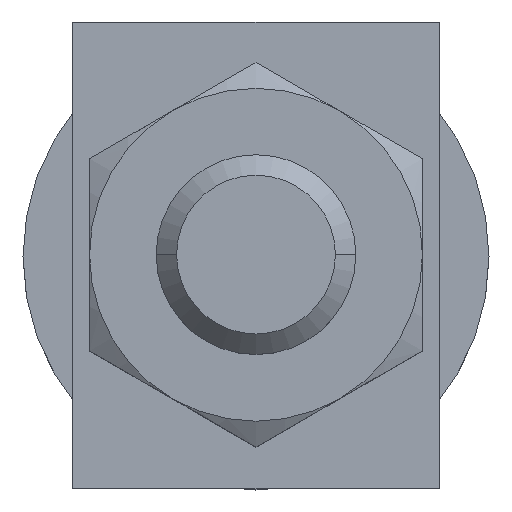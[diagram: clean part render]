
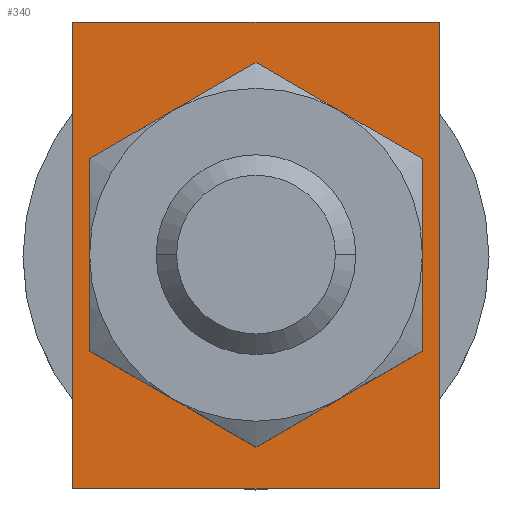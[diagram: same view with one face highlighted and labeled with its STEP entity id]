
A CAD part, top view. The second image highlights one B-rep face of the part: STEP entity #340.
In plain terms, the highlighted planar face has unit normal (0, 0, 1).
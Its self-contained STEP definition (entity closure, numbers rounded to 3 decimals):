
#340=ADVANCED_FACE('',(#630,#631),#632,.F.);
#630=FACE_BOUND('',#917,.T.);
#631=FACE_OUTER_BOUND('',#918,.T.);
#632=PLANE('',#919);
#917=EDGE_LOOP('',(#1467,#1468));
#918=EDGE_LOOP('',(#1469,#1470,#1471,#1472));
#919=AXIS2_PLACEMENT_3D('',#1473,#1474,#1475);
#1467=ORIENTED_EDGE('',*,*,#1884,.T.);
#1468=ORIENTED_EDGE('',*,*,#1925,.T.);
#1469=ORIENTED_EDGE('',*,*,#1936,.T.);
#1470=ORIENTED_EDGE('',*,*,#1902,.T.);
#1471=ORIENTED_EDGE('',*,*,#1899,.T.);
#1472=ORIENTED_EDGE('',*,*,#1934,.T.);
#1473=CARTESIAN_POINT('',(0.0,0.0,14.45));
#1474=DIRECTION('',(0.0,0.0,-1.0));
#1475=DIRECTION('',(0.0,1.0,0.0));
#1884=EDGE_CURVE('',#2211,#2215,#2217,.T.);
#1899=EDGE_CURVE('',#2243,#2241,#2244,.T.);
#1902=EDGE_CURVE('',#2247,#2243,#2248,.T.);
#1925=EDGE_CURVE('',#2215,#2211,#2280,.T.);
#1934=EDGE_CURVE('',#2241,#2289,#2291,.T.);
#1936=EDGE_CURVE('',#2289,#2247,#2293,.T.);
#2211=VERTEX_POINT('',#2898);
#2215=VERTEX_POINT('',#2903);
#2217=CIRCLE('',#2906,3.0);
#2241=VERTEX_POINT('',#2940);
#2243=VERTEX_POINT('',#2943);
#2244=LINE('',#2944,#2945);
#2247=VERTEX_POINT('',#2949);
#2248=LINE('',#2950,#2951);
#2280=CIRCLE('',#2999,3.0);
#2289=VERTEX_POINT('',#3011);
#2291=LINE('',#3014,#3015);
#2293=LINE('',#3017,#3018);
#2898=CARTESIAN_POINT('',(0.0,3.0,14.45));
#2903=CARTESIAN_POINT('',(0.,-3.0,14.45));
#2906=AXIS2_PLACEMENT_3D('',#3350,#3351,#3352);
#2940=CARTESIAN_POINT('',(5.5,-7.0,14.45));
#2943=CARTESIAN_POINT('',(-5.5,-7.0,14.45));
#2944=CARTESIAN_POINT('',(0.0,-7.0,14.45));
#2945=VECTOR('',#3364,1.0);
#2949=CARTESIAN_POINT('',(-5.5,7.0,14.45));
#2950=CARTESIAN_POINT('',(-5.5,0.0,14.45));
#2951=VECTOR('',#3366,1.0);
#2999=AXIS2_PLACEMENT_3D('',#3383,#3384,#3385);
#3011=CARTESIAN_POINT('',(5.5,7.0,14.45));
#3014=CARTESIAN_POINT('',(5.5,0.0,14.45));
#3015=VECTOR('',#3393,1.0);
#3017=CARTESIAN_POINT('',(0.0,7.0,14.45));
#3018=VECTOR('',#3394,1.0);
#3350=CARTESIAN_POINT('',(0.0,0.0,14.45));
#3351=DIRECTION('',(0.0,0.0,-1.0));
#3352=DIRECTION('',(0.0,1.0,0.0));
#3364=DIRECTION('',(1.0,0.0,0.0));
#3366=DIRECTION('',(0.0,-1.0,0.0));
#3383=CARTESIAN_POINT('',(0.0,0.0,14.45));
#3384=DIRECTION('',(0.0,0.0,-1.0));
#3385=DIRECTION('',(0.0,1.0,0.0));
#3393=DIRECTION('',(0.0,1.0,0.0));
#3394=DIRECTION('',(-1.0,0.0,0.0));
